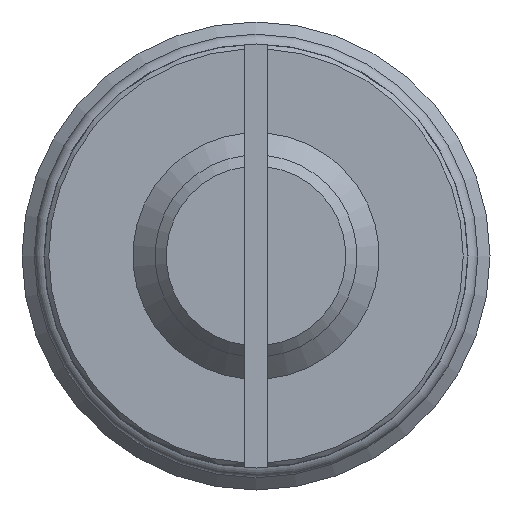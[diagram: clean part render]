
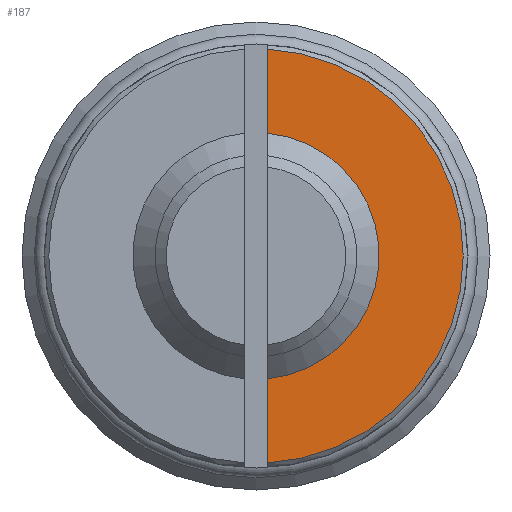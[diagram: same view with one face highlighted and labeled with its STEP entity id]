
A CAD part, left-side view. The second image highlights one B-rep face of the part: STEP entity #187.
In plain terms, the highlighted planar face has unit normal (-1, 0, 0).
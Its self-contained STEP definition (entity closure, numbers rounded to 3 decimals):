
#187 = ADVANCED_FACE( '', ( #389 ), #390, .F. );
#389 = FACE_OUTER_BOUND( '', #582, .T. );
#390 = PLANE( '', #583 );
#582 = EDGE_LOOP( '', ( #1030, #1031, #1032, #1033 ) );
#583 = AXIS2_PLACEMENT_3D( '', #1034, #1035, #1036 );
#1030 = ORIENTED_EDGE( '', *, *, #1148, .F. );
#1031 = ORIENTED_EDGE( '', *, *, #1168, .T. );
#1032 = ORIENTED_EDGE( '', *, *, #1193, .T. );
#1033 = ORIENTED_EDGE( '', *, *, #1171, .T. );
#1034 = CARTESIAN_POINT( '', ( 0., 0., 0. ) );
#1035 = DIRECTION( '', ( 1., 0., 0. ) );
#1036 = DIRECTION( '', ( 0., 0., -1. ) );
#1148 = EDGE_CURVE( '', #1255, #1381, #1383, .T. );
#1168 = EDGE_CURVE( '', #1255, #1410, #1413, .T. );
#1171 = EDGE_CURVE( '', #1416, #1381, #1417, .T. );
#1193 = EDGE_CURVE( '', #1410, #1416, #1442, .T. );
#1255 = VERTEX_POINT( '', #1524 );
#1381 = VERTEX_POINT( '', #1712 );
#1383 = CIRCLE( '', #1714, 9.3 );
#1410 = VERTEX_POINT( '', #1754 );
#1413 = LINE( '', #1760, #1761 );
#1416 = VERTEX_POINT( '', #1766 );
#1417 = LINE( '', #1767, #1768 );
#1442 = CIRCLE( '', #1802, 5.53 );
#1524 = CARTESIAN_POINT( '', ( 0., -0.5, 9.287 ) );
#1712 = CARTESIAN_POINT( '', ( 0., -0.5, -9.287 ) );
#1714 = AXIS2_PLACEMENT_3D( '', #1944, #1945, #1946 );
#1754 = CARTESIAN_POINT( '', ( 0., -0.5, 5.507 ) );
#1760 = CARTESIAN_POINT( '', ( 0., -0.5, 9.5 ) );
#1761 = VECTOR( '', #1963, 1000. );
#1766 = CARTESIAN_POINT( '', ( 0., -0.5, -5.507 ) );
#1767 = CARTESIAN_POINT( '', ( 0., -0.5, 9.5 ) );
#1768 = VECTOR( '', #1966, 1000. );
#1802 = AXIS2_PLACEMENT_3D( '', #1982, #1983, #1984 );
#1944 = CARTESIAN_POINT( '', ( 0., 0., 0. ) );
#1945 = DIRECTION( '', ( 1., 0., 0. ) );
#1946 = DIRECTION( '', ( 0., 0., -1. ) );
#1963 = DIRECTION( '', ( 0., 0., -1. ) );
#1966 = DIRECTION( '', ( 0., 0., -1. ) );
#1982 = CARTESIAN_POINT( '', ( 0., 0., 0. ) );
#1983 = DIRECTION( '', ( 1., 0., 0. ) );
#1984 = DIRECTION( '', ( 0., 0., -1. ) );
